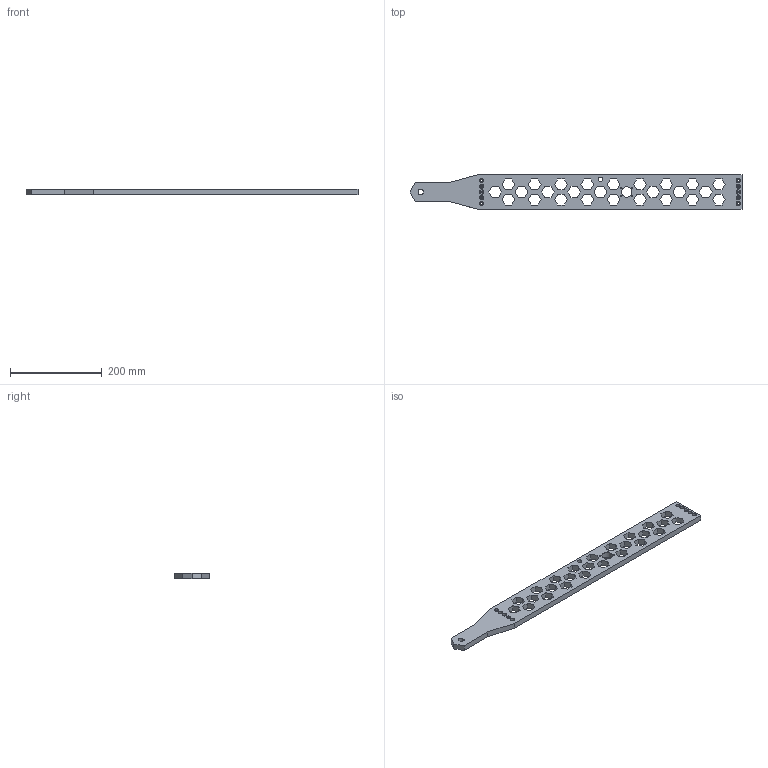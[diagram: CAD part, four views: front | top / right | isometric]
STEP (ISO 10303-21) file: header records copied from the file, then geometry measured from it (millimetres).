
FILE_DESCRIPTION(/* description */ (''),/* implementation_level */ '2;1');
FILE_NAME(/* name */ 'C:/Users/David Florian/Desktop/Cyber-Scooter-Step-Files/10-Board-Sides.step',/* time_stamp */ '2020-12-14T22:17:20-06:00',/* author */ (''),/* organization */ (''),/* preprocessor_version */ 'ST-DEVELOPER v18.1',/* originating_system */ 'Autodesk Translation Framework v9.7.1.1290',/* authorisation */ '');
FILE_SCHEMA (('AUTOMOTIVE_DESIGN { 1 0 10303 214 3 1 1 }'));
Length unit declared in the file: millimetre
Products named in the file (1): Side-Base
Bounding box: 723.09 x 75 x 12.85 mm (x, y, z)
Volume: 462841.1 mm3; surface area: 124749 mm2
Topology: 1 solids, 1 shells, 207 faces, 585 edges, 390 vertices
Faces by surface type: plane 179, cylinder 28
Full cylindrical faces by diameter (mm): 2.5 x4, 4.2 x10, 9 x10, 9.5 x1, 22.7 x1
Entity records: 6820 total; most frequent: CARTESIAN_POINT 1183, ORIENTED_EDGE 1170, DIRECTION 1057, EDGE_CURVE 585, LINE 529, VECTOR 529, VERTEX_POINT 390, EDGE_LOOP 303
